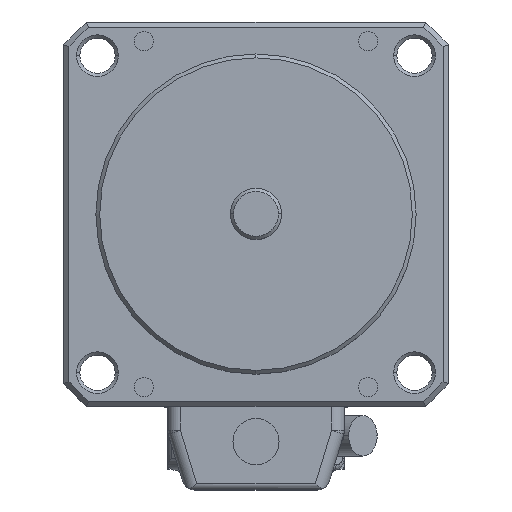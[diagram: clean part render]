
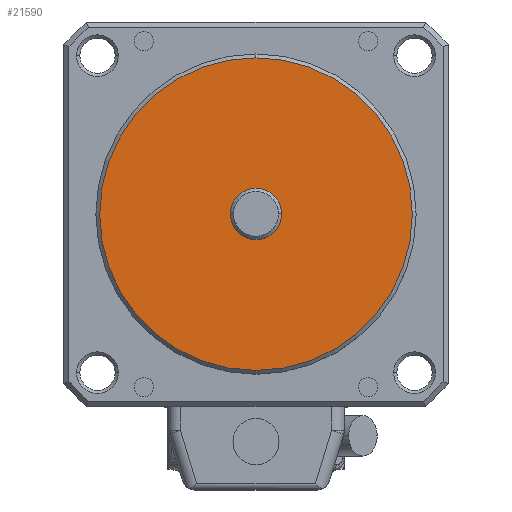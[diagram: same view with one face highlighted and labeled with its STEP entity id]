
A CAD part, top view. The second image highlights one B-rep face of the part: STEP entity #21590.
In plain terms, the highlighted planar face has unit normal (0, 0, 1).
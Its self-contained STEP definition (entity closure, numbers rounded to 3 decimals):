
#21200=CARTESIAN_POINT('',(-24.4,-24.4,-32.7));
#21210=DIRECTION('',(0.,0.,1.));
#21220=DIRECTION('',(1.,0.,0.));
#21230=AXIS2_PLACEMENT_3D('',#21200,#21210,#21220);
#21240=PLANE('',#21230);
#21250=CARTESIAN_POINT('',(0.,0.,
-32.7));
#21260=DIRECTION('',(0.,0.,1.));
#21270=DIRECTION('',(1.,0.,0.));
#21280=AXIS2_PLACEMENT_3D('',#21250,#21260,#21270);
#21290=CIRCLE('',#21280,4.);
#21300=CARTESIAN_POINT('',(4.,0.,-32.7));
#21310=VERTEX_POINT('',#21300);
#21320=CARTESIAN_POINT('',(-4.,0.,-32.7));
#21330=VERTEX_POINT('',#21320);
#21340=EDGE_CURVE('',#21310,#21330,#21290,.T.);
#21350=ORIENTED_EDGE('',*,*,#21340,.F.);
#21360=EDGE_CURVE('',#21330,#21310,#21290,.T.);
#21370=ORIENTED_EDGE('',*,*,#21360,.F.);
#21380=EDGE_LOOP('',(#21370,#21350));
#21390=FACE_BOUND('',#21380,.T.);
#21400=CARTESIAN_POINT('',(0.,0.,
-32.7));
#21410=DIRECTION('',(0.,0.,1.));
#21420=DIRECTION('',(0.,-1.,0.));
#21430=AXIS2_PLACEMENT_3D('',#21400,#21410,#21420);
#21440=CIRCLE('',#21430,24.4);
#21450=CARTESIAN_POINT('',(0.,24.4,-32.7));
#21460=VERTEX_POINT('',#21450);
#21470=CARTESIAN_POINT('',(0.,-24.4,-32.7));
#21480=VERTEX_POINT('',#21470);
#21490=EDGE_CURVE('',#21460,#21480,#21440,.T.);
#21500=ORIENTED_EDGE('',*,*,#21490,.T.);
#21510=CARTESIAN_POINT('',(24.4,0.,-32.7));
#21520=VERTEX_POINT('',#21510);
#21530=EDGE_CURVE('',#21520,#21460,#21440,.T.);
#21540=ORIENTED_EDGE('',*,*,#21530,.T.);
#21550=EDGE_CURVE('',#21480,#21520,#21440,.T.);
#21560=ORIENTED_EDGE('',*,*,#21550,.T.);
#21570=EDGE_LOOP('',(#21560,#21540,#21500));
#21580=FACE_OUTER_BOUND('',#21570,.T.);
#21590=ADVANCED_FACE('',(#21390,#21580),#21240,.T.);
